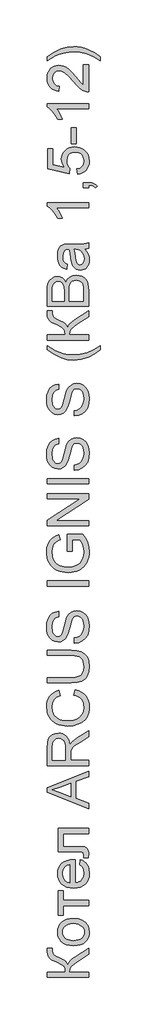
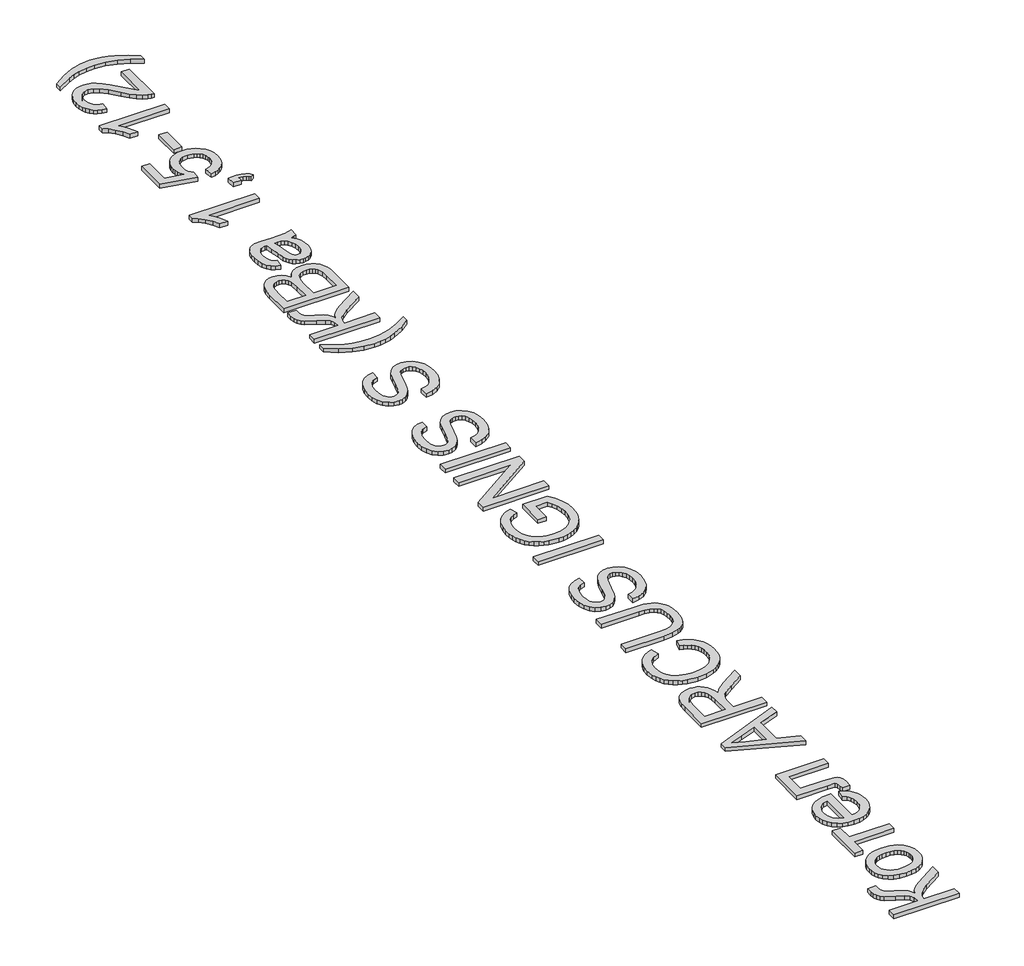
# One storey, incomplete: 1 proxy.
"""IFC4 building model written with IfcOpenShell, lengths in millimetres."""

from ifc_helpers import new_model, si_unit, frame, origin, place, context, project, spatial, polyline, outline, extrude, element, save

model = new_model("IFC4")

# Units and contexts
model_context = context("Model", 3, world=origin())
ifc_project = project(units=[si_unit("LENGTHUNIT", "METRE", prefix="MILLI")], contexts=[model_context])

# Site, building, storey
site = spatial("IfcSite", under=ifc_project)
building = spatial("IfcBuilding", under=site)
storey = spatial("IfcBuildingStorey", under=building, Name="Уровень 1", Elevation=0.0)

# Proxy
placement = place(None, origin())
element("IfcBuildingElementProxy", 1, Name="200 мм ARIAL", ObjectType="200 мм ARIAL", at=placement, inside=storey, context=model_context, shape_type="SweptSolid", body=[
    extrude(outline(polyline([(5315.8829145, -83536.8796983), (5315.8800566, -83486.6315388), (5491.6785983, -83486.6315388), (5488.3515281, -83452.6273581), (5478.3794046, -83430.4697338), (5454.9187574, -83412.5565502), (5411.1261165, -83391.2856914), (5354.9596453, -83363.5783056), (5339.7400725, -83350.2136583), (5327.1441943, -83332.1888737), (5318.6804735, -83310.7913673), (5315.8573727, -83287.3085544), (5316.4422329, -83254.3405452), (5366.6703877, -83254.3405452), (5366.3773436, -83265.4260894), (5366.0842994, -83276.5116336), (5369.1035496, -83299.5161776), (5378.1552941, -83315.7510064), (5397.1641212, -83329.7283592), (5429.8583705, -83345.5680902), (5470.5728562, -83364.9998893), (5492.8438144, -83381.1228493), (5504.5687971, -83397.0262801), (5513.645356, -83415.7994918), (5521.920487, -83396.3437239), (5536.3515254, -83377.0221455), (5556.9384711, -83357.8347566), (5583.6813242, -83338.7815573), (5717.6854908, -83254.3006026), (5717.6854908, -83312.5731103), (5604.4840658, -83384.0041504), (5568.1772514, -83411.5871689), (5545.3834136, -83434.288082), (5533.3563139, -83457.5028046), (5529.3497143, -83486.6058183), (5717.7110103, -83486.6058183), (5717.7110103, -83536.8796983), (5315.8829145, -83536.8796983)])), frame((0.0, 0.0, -4300.0), z_axis=(0.0, 0.0, 1.0), x_axis=(1.0, 0.0, 0.0)), (0.0, 0.0, 1.0), 25.0),
    extrude(outline(polyline([(5570.1307973, -83229.203315), (5531.9136806, -83226.4914684), (5498.9811836, -83218.3466297), (5471.3333064, -83204.7687988), (5448.970049, -83185.7579757), (5434.6756553, -83166.6174757), (5424.4645257, -83145.4899482), (5418.3366602, -83122.3753934), (5416.2920587, -83097.2738111), (5418.7751745, -83069.562817), (5426.2311307, -83044.5061389), (5438.6599273, -83022.1037766), (5456.0615643, -83002.3557302), (5477.8475413, -82986.2369539), (5503.4293583, -82974.722402), (5532.8070151, -82967.8120745), (5565.9805119, -82965.5059714), (5616.7241647, -82969.5714245), (5655.3531638, -82981.7807111), (5684.2832271, -83001.777937), (5705.9300725, -83029.207208), (5719.4350493, -83061.7877534), (5723.9395065, -83097.2388027), (5721.4656338, -83125.3544659), (5714.0372952, -83150.6441328), (5701.6544909, -83173.1078035), (5684.3172207, -83192.745478), (5662.3196919, -83208.6926001), (5635.9561118, -83220.0846136), (5605.2264803, -83226.9215186), (5570.1307973, -83229.203315)]), holes=[polyline([(5570.0269798, -83178.9751714), (5594.3897994, -83177.5192652), (5615.48427, -83173.1574631), (5633.3103914, -83165.8897651), (5647.8681638, -83155.7161713), (5659.1760614, -83143.3417867), (5667.2525586, -83129.4717163), (5672.0976554, -83114.1059602), (5673.7113518, -83097.2445184), (5672.0846307, -83080.4692844), (5667.2084528, -83065.1659482), (5659.0828181, -83051.3345097), (5647.7077266, -83038.974969), (5633.0035521, -83028.804705), (5614.8906685, -83021.5410967), (5593.3690759, -83017.184144), (5568.4387741, -83015.7338471), (5544.8485077, -83017.1988624), (5524.3058633, -83021.5881929), (5506.8108409, -83028.9018384), (5492.3634405, -83039.139799), (5481.0555467, -83051.5479061), (5472.9790443, -83065.3719913), (5468.1339332, -83080.6120543), (5466.5202134, -83097.2680954), (5468.1316159, -83114.1291703), (5472.9618155, -83129.4938254), (5481.0108123, -83143.3620608), (5492.2786063, -83155.7338764), (5506.7957741, -83165.9041617), (5524.5928923, -83173.1678059), (5545.6699609, -83177.5248092), (5570.0269798, -83178.9751714)])]), frame((0.0, 0.0, -4300.0), z_axis=(0.0, 0.0, 1.0), x_axis=(1.0, 0.0, 0.0)), (0.0, 0.0, 1.0), 25.0),
    extrude(outline(polyline([(5422.5384386, -82934.1296955), (5422.524864, -82695.5402448), (5472.7637356, -82695.5402448), (5472.7637356, -82789.6901712), (5717.6317056, -82789.6901712), (5717.6317056, -82839.9461897), (5472.7801681, -82839.9461897), (5472.7801681, -82934.1296955), (5422.5384386, -82934.1296955)])), frame((0.0, 0.0, -4300.0), z_axis=(0.0, 0.0, 1.0), x_axis=(1.0, 0.0, 0.0)), (0.0, 0.0, 1.0), 25.0),
    extrude(outline(polyline([(5629.687491, -82444.9702209), (5635.9604064, -82395.7223703), (5655.6858718, -82403.2709037), (5673.0694559, -82413.4623225), (5688.1111587, -82426.2966269), (5700.8109802, -82441.7738168), (5710.8991221, -82459.7345074), (5718.1057861, -82480.0193138), (5723.8746808, -82527.5612741), (5721.3919581, -82558.7272932), (5713.9363106, -82586.4971011), (5701.5077383, -82610.8706977), (5684.1062413, -82631.8480831), (5662.2161164, -82648.7179636), (5636.3216608, -82660.7690457), (5606.4228745, -82668.0013292), (5572.5197573, -82670.4148143), (5537.4664578, -82667.9846506), (5506.5696708, -82660.6857088), (5479.8293963, -82648.5179889), (5457.2456344, -82631.481491), (5439.3028753, -82610.5633098), (5426.4856093, -82586.7505404), (5418.7938364, -82560.0431826), (5416.2275567, -82530.4412366), (5418.7810764, -82501.7921354), (5426.4484678, -82475.8831733), (5439.2297308, -82452.71435), (5457.1248653, -82432.2856658), (5479.6557399, -82415.6088503), (5506.3442232, -82403.6956337), (5537.1903151, -82396.5460158), (5572.1940157, -82394.1599967), (5585.7577934, -82394.4527617), (5585.7577934, -82620.1851525), (5605.8008996, -82617.2735382), (5623.3543437, -82611.4865964), (5638.4181258, -82602.8243268), (5650.9922459, -82591.2867297), (5660.9050982, -82577.5114865), (5667.985077, -82562.1362791), (5673.6464144, -82526.5859711), (5671.0191475, -82499.8535116), (5663.1439108, -82477.3400295), (5649.5301951, -82459.0455807), (5629.687491, -82444.9702209)]), holes=[polyline([(5535.5196363, -82620.1908681), (5535.5096339, -82444.3923265), (5508.9738525, -82451.1889003), (5489.9926571, -82464.5083886), (5479.69352, -82478.2070336), (5472.3376538, -82493.7938046), (5467.9250583, -82511.2687016), (5466.4557337, -82530.6317246), (5471.1562133, -82564.4885963), (5485.2492793, -82592.4828126), (5507.2140488, -82611.9412708), (5535.5196363, -82620.1908681)])]), frame((0.0, 0.0, -4300.0), z_axis=(0.0, 0.0, 1.0), x_axis=(1.0, 0.0, 0.0)), (0.0, 0.0, 1.0), 25.0),
    extrude(outline(polyline([(5422.4691364, -82318.8347999), (5422.4562761, -82092.7745575), (5717.2580954, -82092.7745575), (5717.2580954, -82143.0305426), (5472.7044357, -82143.0305426), (5472.7044357, -82268.58491), (5613.4806116, -82268.58491), (5678.4244312, -82271.9620342), (5693.1281696, -82278.3001941), (5705.8460178, -82290.5492174), (5714.6405129, -82309.1385202), (5717.5741919, -82334.4975188), (5715.0281874, -82375.3136101), (5667.3481247, -82375.3136101), (5667.3481247, -82352.8482831), (5664.2553316, -82330.1380531), (5654.4441125, -82321.0647469), (5610.6413732, -82318.8347999), (5422.4691364, -82318.8347999)])), frame((0.0, 0.0, -4300.0), z_axis=(0.0, 0.0, 1.0), x_axis=(1.0, 0.0, 0.0)), (0.0, 0.0, 1.0), 25.0),
    extrude(outline(polyline([(5717.5248609, -81900.9853785), (5315.6765035, -81740.6345548), (5315.6765035, -81697.8621418), (5717.4895288, -81537.4198677), (5717.4895288, -81590.4929765), (5591.9432102, -81636.5170402), (5591.9432102, -81802.0148861), (5717.5248609, -81847.9122696), (5717.5248609, -81900.9853785)]), holes=[polyline([(5541.7056335, -81783.5774511), (5541.6983103, -81654.8678046), (5442.9138518, -81691.0786342), (5365.9070919, -81719.2426326), (5434.2869383, -81744.2508273), (5541.7056335, -81783.5774511)])]), frame((0.0, 0.0, -4300.0), z_axis=(0.0, 0.0, 1.0), x_axis=(1.0, 0.0, 0.0)), (0.0, 0.0, 1.0), 25.0),
    extrude(outline(polyline([(5717.477383, -81483.7810103), (5315.6324417, -81483.8038729), (5315.6324417, -81310.6540816), (5318.33721, -81264.1167012), (5326.4635493, -81230.2583699), (5341.4703187, -81205.5104665), (5364.8163772, -81186.3043696), (5393.7672877, -81173.9770283), (5425.5886126, -81169.8653916), (5446.226986, -81171.5644973), (5465.1734895, -81176.666704), (5482.428123, -81185.1720117), (5497.9908866, -81197.0804205), (5511.365157, -81212.5452709), (5522.054311, -81231.7199036), (5530.0583485, -81254.6043187), (5535.3772697, -81281.1985162), (5556.8583295, -81252.6484288), (5608.5533794, -81211.9302718), (5717.4454669, -81144.9143069), (5717.4454669, -81203.2849164), (5634.1629338, -81255.582688), (5579.0339837, -81293.3581798), (5562.9591384, -81307.4008385), (5552.9909583, -81319.897698), (5543.4287448, -81343.7865905), (5541.6731257, -81372.9230453), (5541.6731257, -81433.5299929), (5717.477383, -81433.5299929), (5717.477383, -81483.7810103)]), holes=[polyline([(5491.4385744, -81433.5557134), (5491.4321778, -81321.1309764), (5489.6504073, -81288.8434025), (5484.3132676, -81263.7912458), (5475.0650207, -81244.9322144), (5461.5499287, -81231.2240166), (5445.2027552, -81222.8749554), (5427.4582637, -81220.0933342), (5402.9579272, -81225.4058857), (5383.2167395, -81241.3374226), (5375.6213603, -81253.4998526), (5370.1968358, -81268.746113), (5365.8745841, -81308.490125), (5365.8745841, -81433.5557134), (5491.4385744, -81433.5557134)])]), frame((0.0, 0.0, -4300.0), z_axis=(0.0, 0.0, 1.0), x_axis=(1.0, 0.0, 0.0)), (0.0, 0.0, 1.0), 25.0),
    extrude(outline(polyline([(5574.5631922, -80799.4157931), (5587.5069227, -80749.1861648), (5618.7443005, -80759.1215555), (5646.0395851, -80772.35607), (5669.3927763, -80788.8897083), (5688.8038742, -80808.7224705), (5704.0643614, -80831.4067905), (5714.9657205, -80856.4951022), (5721.5079514, -80883.9874057), (5723.6910543, -80913.8837009), (5722.0452021, -80944.5131302), (5717.1003335, -80972.1446966), (5708.8564486, -80996.7784001), (5697.3135472, -81018.4142408), (5682.6433416, -81037.3495703), (5665.0175438, -81053.8817404), (5644.4361539, -81068.0107512), (5620.8991717, -81079.7366025), (5569.0296066, -81095.5246426), (5513.4800244, -81100.7916764), (5454.8880089, -81094.8509182), (5428.5897318, -81087.4196287), (5404.2899418, -81077.014399), (5382.3902699, -81063.8681754), (5363.2923472, -81048.2139039), (5346.9961736, -81030.0515847), (5333.5017492, -81009.3812177), (5322.9195184, -80986.9048318), (5315.3599258, -80963.324456), (5309.3086548, -80912.8517345), (5311.2612916, -80884.122994), (5317.1260117, -80857.7789099), (5326.902815, -80833.8194823), (5340.5917016, -80812.2447111), (5357.8309613, -80793.4102568), (5378.258884, -80777.6717798), (5401.8754696, -80765.0292801), (5428.6807181, -80755.4827577), (5440.6548613, -80805.7095505), (5404.028059, -80823.1267996), (5378.904426, -80846.919361), (5364.3765535, -80877.3816436), (5359.5370328, -80914.8080562), (5364.913019, -80957.94774), (5371.6289913, -80976.6292499), (5381.0302831, -80993.3852051), (5406.1964715, -81020.2745153), (5438.719231, -81037.7697348), (5475.4839974, -81047.3672713), (5513.3762068, -81050.5635328), (5559.7779577, -81046.769068), (5599.9003268, -81035.3969486), (5632.2104237, -81016.0181534), (5655.175358, -80988.2036611), (5668.8935622, -80954.8597283), (5673.4634689, -80918.8926117), (5671.9036169, -80897.0559269), (5667.2292295, -80876.9670361), (5659.4403068, -80858.6259392), (5648.5368487, -80842.0326362), (5634.5679509, -80827.5795289), (5617.5827088, -80815.6590193), (5597.5811226, -80806.2711074), (5574.5631922, -80799.4157931)])), frame((0.0, 0.0, -4300.0), z_axis=(0.0, 0.0, 1.0), x_axis=(1.0, 0.0, 0.0)), (0.0, 0.0, 1.0), 25.0),
    extrude(outline(polyline([(5315.5278296, -80416.4555845), (5315.5249718, -80366.2010507), (5547.3396782, -80366.2010507), (5601.6271855, -80369.6039129), (5643.4320064, -80379.8262753), (5660.3861663, -80388.0097205), (5675.6851685, -80398.9279435), (5701.3176994, -80428.9687232), (5711.0840789, -80448.1097384), (5718.061002, -80470.0224488), (5723.6464789, -80522.162955), (5718.7962401, -80573.1642145), (5704.232753, -80613.9394598), (5693.4342347, -80630.4953785), (5680.4587909, -80644.5008964), (5665.3064218, -80655.9560135), (5647.9771274, -80664.8607298), (5604.4089386, -80676.3068177), (5547.375401, -80680.1533969), (5315.5549789, -80680.1533969), (5315.5549789, -80629.899064), (5545.6038518, -80629.899064), (5590.7426904, -80627.4168554), (5622.1712297, -80619.9820627), (5643.9360488, -80606.5151049), (5660.0837267, -80585.936401), (5670.0870637, -80559.1044023), (5673.41886, -80526.8775602), (5671.7663722, -80499.1946279), (5666.8156962, -80475.7917648), (5658.5668321, -80456.668971), (5647.0197797, -80441.8262464), (5630.7826561, -80430.7119264), (5608.4635784, -80422.7743464), (5580.0625464, -80418.0135064), (5545.5795602, -80416.4555845), (5315.5278296, -80416.4555845)])), frame((0.0, 0.0, -4300.0), z_axis=(0.0, 0.0, 1.0), x_axis=(1.0, 0.0, 0.0)), (0.0, 0.0, 1.0), 25.0),
    extrude(outline(polyline([(5579.2120674, -80297.1337098), (5579.2092095, -80246.905555), (5607.081746, -80241.1388987), (5629.4845732, -80230.7130261), (5647.2636859, -80214.4506187), (5661.2650786, -80191.1743577), (5670.3485264, -80162.7237829), (5673.3738046, -80130.938434), (5671.0774891, -80102.9551381), (5664.1953078, -80078.4549802), (5653.3037416, -80058.6028544), (5638.9792716, -80044.5636549), (5622.5339962, -80036.2146049), (5605.280014, -80033.4329279), (5588.4680442, -80035.5195056), (5573.9374171, -80041.7751531), (5561.5412396, -80054.4807553), (5551.1326184, -80075.9171975), (5531.9620262, -80149.0543201), (5519.2755605, -80197.0643644), (5507.2002639, -80227.7838853), (5490.305063, -80252.789521), (5469.8283151, -80270.5115007), (5446.2114926, -80281.0724014), (5419.8960679, -80284.5948004), (5390.4772759, -80280.2448778), (5363.0440558, -80267.1881886), (5339.791476, -80245.7678396), (5322.9146049, -80216.3269376), (5312.6466757, -80180.9869088), (5309.2209218, -80141.8691795), (5312.7968172, -80099.4887665), (5323.5347517, -80062.4050392), (5341.2141466, -80031.942398), (5365.6144234, -80009.4252432), (5395.2150396, -79995.1725788), (5428.5011682, -79989.5034089), (5428.5011682, -80039.7315636), (5398.5320979, -80048.9565493), (5386.6749867, -80057.3210827), (5376.9028247, -80068.1869764), (5363.8096446, -80098.2321627), (5359.4488532, -80139.9014266), (5363.7701886, -80182.5507211), (5369.1676464, -80198.8534107), (5376.7229642, -80211.8081287), (5395.7811771, -80228.7285318), (5418.4188243, -80234.3668131), (5437.7199113, -80230.3669657), (5453.2431666, -80218.3722462), (5467.1213543, -80190.0192276), (5481.2909674, -80136.3558945), (5494.7491466, -80080.9758597), (5506.4930326, -80047.4727361), (5524.7121957, -80018.8371807), (5547.199775, -79998.8586293), (5573.7104685, -79987.1201768), (5603.9989741, -79983.2049183), (5634.9628873, -79987.7018179), (5664.0884148, -80001.1997729), (5689.155939, -80023.1472129), (5707.9458426, -80052.9925674), (5719.6853626, -80088.8842518), (5723.601736, -80128.9706811), (5719.3889557, -80178.181509), (5706.7384242, -80218.6867565), (5685.6011437, -80250.952413), (5655.9281163, -80275.4444679), (5619.7793681, -80291.1694054), (5579.2120674, -80297.1337098)])), frame((0.0, 0.0, -4300.0), z_axis=(0.0, 0.0, 1.0), x_axis=(1.0, 0.0, 0.0)), (0.0, 0.0, 1.0), 25.0),
    extrude(outline(polyline([(5717.2794786, -79744.6311521), (5315.4485249, -79744.6540147), (5315.4485249, -79694.3801347), (5717.2794786, -79694.3801347), (5717.2794786, -79744.6311521)])), frame((0.0, 0.0, -4300.0), z_axis=(0.0, 0.0, 1.0), x_axis=(1.0, 0.0, 0.0)), (0.0, 0.0, 1.0), 25.0),
    extrude(outline(polyline([(5560.2779143, -79405.5889642), (5510.0311837, -79405.591822), (5510.0311837, -79242.3332279), (5660.2251386, -79242.3332279), (5687.8208023, -79282.0000298), (5707.61751, -79322.9185179), (5719.5416743, -79364.9905988), (5723.5197075, -79408.118179), (5721.9441637, -79436.9695039), (5717.2108119, -79464.4661562), (5709.3196522, -79490.6081357), (5698.2706845, -79515.3954426), (5684.2293647, -79538.0279147), (5667.3611486, -79557.7053897), (5647.6660362, -79574.4278676), (5625.1440276, -79588.1953486), (5600.5155516, -79598.9495025), (5574.5010372, -79606.6319995), (5547.1004844, -79611.2428395), (5518.3138933, -79612.7820226), (5461.7206837, -79606.6693587), (5434.9042817, -79599.0235303), (5409.0746816, -79588.3180378), (5385.3662078, -79574.7428243), (5364.9131847, -79558.4878331), (5347.7156123, -79539.5530642), (5333.7734907, -79517.9385177), (5322.9979684, -79494.1132532), (5315.3001939, -79468.5463303), (5310.6801673, -79441.2377491), (5309.1378885, -79412.1875095), (5312.7016357, -79370.812642), (5323.402768, -79333.6062916), (5340.4689271, -79302.2730661), (5363.127755, -79278.5175734), (5392.4704756, -79260.9417376), (5429.5883133, -79248.147483), (5442.6411304, -79294.4500785), (5416.167066, -79304.7905752), (5396.1925041, -79317.3621498), (5381.13576, -79333.9921294), (5369.4151492, -79356.5078414), (5361.8766229, -79383.3518223), (5359.3661326, -79412.9666088), (5362.0801415, -79447.6330469), (5370.2137062, -79477.2711476), (5382.7490075, -79501.7706622), (5398.6682259, -79521.0213419), (5417.1498461, -79535.7958324), (5437.3723531, -79546.8667793), (5475.2900634, -79558.6346884), (5516.2480385, -79562.5541023), (5564.2806268, -79557.8274842), (5603.8018038, -79543.65953), (5634.5295756, -79520.4794675), (5656.1819481, -79488.7165245), (5669.0168001, -79451.5467195), (5673.2920105, -79412.1460711), (5670.0629528, -79377.3570643), (5660.3837953, -79343.4271828), (5647.0508512, -79313.961352), (5632.860434, -79292.5727582), (5560.2779143, -79292.5727582), (5560.2779143, -79405.5889642)])), frame((0.0, 0.0, -4300.0), z_axis=(0.0, 0.0, 1.0), x_axis=(1.0, 0.0, 0.0)), (0.0, 0.0, 1.0), 25.0),
    extrude(outline(polyline([(5717.2130341, -79160.7288531), (5315.3816786, -79160.7517157), (5315.3816786, -79106.9918939), (5633.69834, -78897.0539033), (5315.3520733, -78897.0539033), (5315.3520733, -78846.7800233), (5717.1834288, -78846.7800233), (5717.1834288, -78900.5398452), (5398.7686655, -79110.4778358), (5717.2130341, -79110.4778358), (5717.2130341, -79160.7288531)])), frame((0.0, 0.0, -4300.0), z_axis=(0.0, 0.0, 1.0), x_axis=(1.0, 0.0, 0.0)), (0.0, 0.0, 1.0), 25.0),
    extrude(outline(polyline([(5717.1665944, -78752.6250958), (5315.3356408, -78752.6479584), (5315.3356408, -78702.3740784), (5717.1665944, -78702.3740784), (5717.1665944, -78752.6250958)])), frame((0.0, 0.0, -4300.0), z_axis=(0.0, 0.0, 1.0), x_axis=(1.0, 0.0, 0.0)), (0.0, 0.0, 1.0), 25.0),
    extrude(outline(polyline([(5579.0213075, -78620.769045), (5579.0184496, -78570.5408903), (5606.8909861, -78564.7742339), (5629.2938134, -78554.3483613), (5647.072926, -78538.0859539), (5661.0743187, -78514.8096929), (5670.1577665, -78486.3591181), (5673.1830447, -78454.5737693), (5670.8867292, -78426.5904733), (5664.0045479, -78402.0903154), (5653.1129817, -78382.2381897), (5638.7885117, -78368.1989901), (5622.3432364, -78359.8499402), (5605.0892541, -78357.0682631), (5588.2772843, -78359.1548409), (5573.7466572, -78365.4104883), (5561.3504797, -78378.1160906), (5550.9418585, -78399.5525327), (5531.7712663, -78472.6896553), (5519.0848006, -78520.6996997), (5507.0095041, -78551.4192206), (5490.1143031, -78576.4248562), (5469.6375552, -78594.1468359), (5446.0207328, -78604.7077367), (5419.705308, -78608.2301357), (5390.286516, -78603.880213), (5362.8532959, -78590.8235238), (5339.6007162, -78569.4031748), (5322.723845, -78539.9622728), (5312.4559158, -78504.622244), (5309.0301619, -78465.5045147), (5312.6060574, -78423.1241017), (5323.3439918, -78386.0403744), (5341.0233867, -78355.5777332), (5365.4236635, -78333.0605784), (5395.0242797, -78318.807914), (5428.3104083, -78313.1387441), (5428.3104083, -78363.3668989), (5398.341338, -78372.5918846), (5386.4842268, -78380.9564179), (5376.7120649, -78391.8223116), (5363.6188847, -78421.867498), (5359.2580934, -78463.5367618), (5363.5794287, -78506.1860563), (5368.9768865, -78522.488746), (5376.5322043, -78535.4434639), (5395.5904172, -78552.3638671), (5418.2280644, -78558.0021484), (5437.5291514, -78554.002301), (5453.0524068, -78542.0075814), (5466.9305944, -78513.6545629), (5481.1002075, -78459.9912297), (5494.5583867, -78404.6111949), (5506.3022727, -78371.1080713), (5524.5214358, -78342.4725159), (5547.0090151, -78322.4939645), (5573.5197086, -78310.755512), (5603.8082142, -78306.8402535), (5634.7721274, -78311.3371531), (5663.8976549, -78324.8351081), (5688.9651791, -78346.7825481), (5707.7550827, -78376.6279026), (5719.4946027, -78412.519587), (5723.4109762, -78452.6060163), (5719.1981958, -78501.8168443), (5706.5476643, -78542.3220917), (5685.4103838, -78574.5877482), (5655.7373564, -78599.0798031), (5619.5886082, -78614.8047407), (5579.0213075, -78620.769045)])), frame((0.0, 0.0, -4300.0), z_axis=(0.0, 0.0, 1.0), x_axis=(1.0, 0.0, 0.0)), (0.0, 0.0, 1.0), 25.0),
    extrude(outline(polyline([(5578.9612931, -78093.3734201), (5578.9584353, -78043.1452654), (5606.8309718, -78037.378609), (5629.233799, -78026.9527365), (5647.0129117, -78010.690329), (5661.0143044, -77987.414068), (5670.0977522, -77958.9634933), (5673.1230303, -77927.1781444), (5670.8267149, -77899.1948484), (5663.9445336, -77874.6946905), (5653.0529674, -77854.8425648), (5638.7284974, -77840.8033653), (5622.283222, -77832.4543153), (5605.0292398, -77829.6726382), (5588.2172699, -77831.759216), (5573.6866429, -77838.0148634), (5561.2904654, -77850.7204657), (5550.8818442, -77872.1569079), (5531.7112519, -77945.2940305), (5519.0247863, -77993.3040748), (5506.9494897, -78024.0235957), (5490.0542888, -78049.0292314), (5469.5775409, -78066.751211), (5445.9607184, -78077.3121118), (5419.6452937, -78080.8345108), (5390.2265016, -78076.4845882), (5362.7932816, -78063.427899), (5339.5407018, -78042.00755), (5322.6638307, -78012.5666479), (5312.3959015, -77977.2266191), (5308.9701475, -77938.1088899), (5312.546043, -77895.7284768), (5323.2839774, -77858.6447496), (5340.9633723, -77828.1821084), (5365.3636492, -77805.6649535), (5394.9642654, -77791.4122891), (5428.250394, -77785.7431192), (5428.250394, -77835.971274), (5398.2813237, -77845.1962597), (5386.4242124, -77853.560793), (5376.6520505, -77864.4266867), (5363.5588703, -77894.4718731), (5359.198079, -77936.1411369), (5363.5194143, -77978.7904314), (5368.9168721, -77995.0931211), (5376.47219, -78008.047839), (5395.5304029, -78024.9682422), (5418.1680501, -78030.6065235), (5437.469137, -78026.6066761), (5452.9923924, -78014.6119565), (5466.8705801, -77986.258938), (5481.0401931, -77932.5956049), (5494.4983724, -77877.2155701), (5506.2422584, -77843.7124464), (5524.4614214, -77815.0768911), (5546.9490008, -77795.0983396), (5573.4596943, -77783.3598872), (5603.7481999, -77779.4446286), (5634.7121131, -77783.9415282), (5663.8376405, -77797.4394832), (5688.9051648, -77819.3869232), (5707.6950683, -77849.2322778), (5719.4345883, -77885.1239621), (5723.3509618, -77925.2103915), (5719.1381815, -77974.4212194), (5706.48765, -78014.9264669), (5685.3503695, -78047.1921234), (5655.6773421, -78071.6841783), (5619.5285938, -78087.4091158), (5578.9612931, -78093.3734201)])), frame((0.0, 0.0, -4300.0), z_axis=(0.0, 0.0, 1.0), x_axis=(1.0, 0.0, 0.0)), (0.0, 0.0, 1.0), 25.0),
    extrude(outline(polyline([(5830.0320501, -77452.9358688), (5775.418266, -77491.8639989), (5712.2198263, -77524.2693317), (5678.1676671, -77537.0203178), (5643.5019567, -77546.129342), (5608.2226953, -77551.5964043), (5572.3298827, -77553.4215045), (5509.9119517, -77547.9839537), (5450.1905829, -77531.656789), (5382.5456576, -77499.2418198), (5315.1891772, -77452.9944543), (5315.1891772, -77415.3233382), (5394.7551368, -77462.3050779), (5432.5261799, -77478.3404349), (5471.8664175, -77490.5496405), (5522.1201778, -77500.0352775), (5572.6184727, -77503.1933163), (5637.009459, -77497.6922845), (5701.3746696, -77481.2038466), (5765.7141044, -77453.7280027), (5830.0320501, -77415.2647528), (5830.0320501, -77452.9358688)])), frame((0.0, 0.0, -4300.0), z_axis=(0.0, 0.0, 1.0), x_axis=(1.0, 0.0, 0.0)), (0.0, 0.0, 1.0), 25.0),
    extrude(outline(polyline([(5315.1798893, -77358.8166641), (5315.1770314, -77308.5685046), (5490.9755731, -77308.5685046), (5487.6485029, -77274.5643239), (5477.6763794, -77252.4066996), (5454.2157322, -77234.493516), (5410.4230913, -77213.2226572), (5354.2566201, -77185.5152714), (5339.0370473, -77172.1506241), (5326.4411691, -77154.1258395), (5317.9774483, -77132.7283331), (5315.1543475, -77109.2455202), (5315.7392077, -77076.277511), (5365.9673625, -77076.277511), (5365.6743184, -77087.3630552), (5365.3812742, -77098.4485994), (5368.4005244, -77121.4531434), (5377.4522689, -77137.6879722), (5396.461096, -77151.665325), (5429.1553453, -77167.505056), (5469.8698309, -77186.9368551), (5492.1407892, -77203.0598151), (5503.8657719, -77218.9632459), (5512.9423308, -77237.7364576), (5521.2174618, -77218.2806897), (5535.6485002, -77198.9591113), (5556.2354459, -77179.7717224), (5582.978299, -77160.7185231), (5716.9824656, -77076.2375684), (5716.9824656, -77134.5100761), (5603.7810406, -77205.9411161), (5567.4742262, -77233.5241347), (5544.6803884, -77256.2250478), (5532.6532887, -77279.4397704), (5528.6466891, -77308.5427841), (5717.0079851, -77308.5427841), (5717.0079851, -77358.8166641), (5315.1798893, -77358.8166641)])), frame((0.0, 0.0, -4300.0), z_axis=(0.0, 0.0, 1.0), x_axis=(1.0, 0.0, 0.0)), (0.0, 0.0, 1.0), 25.0),
    extrude(outline(polyline([(5716.9708334, -77032.3107956), (5315.128147, -77032.3336582), (5315.128147, -76879.0004436), (5318.0786668, -76836.8285682), (5326.9408761, -76803.902121), (5341.9353269, -76778.6637097), (5363.2825712, -76759.5559421), (5388.3952796, -76747.5233431), (5414.6861231, -76743.5104376), (5438.8808792, -76746.879936), (5461.6294003, -76756.9941023), (5481.5337432, -76773.9266719), (5497.1959647, -76797.7513804), (5512.0551584, -76769.2878856), (5534.6652451, -76748.2547252), (5563.530241, -76735.265206), (5597.1541626, -76730.932635), (5625.174844, -76733.8847651), (5651.1605843, -76742.7477643), (5673.259535, -76755.9767387), (5689.6198476, -76772.0267948), (5701.4678846, -76791.682608), (5710.0300087, -76815.7288536), (5715.2204701, -76844.9503563), (5716.9708334, -76880.1319408), (5716.9708334, -77032.3107956)]), holes=[polyline([(5478.3761638, -76982.0869276), (5478.3709449, -76890.3616841), (5474.0483676, -76836.7985571), (5466.602755, -76818.0496852), (5455.4543971, -76804.57421), (5440.7749804, -76796.4456883), (5422.7361916, -76793.7376769), (5405.2252962, -76796.2657926), (5389.9713186, -76803.8458976), (5378.065603, -76816.1345111), (5370.5994936, -76832.7881524), (5366.6660643, -76858.3441361), (5365.3680345, -76897.3397767), (5365.3680345, -76982.0869276), (5478.3761638, -76982.0869276)]), polyline([(5666.7311022, -76982.0654939), (5666.7252414, -76879.0585359), (5664.758962, -76841.7800506), (5653.8170151, -76810.2415458), (5644.385656, -76798.6665988), (5631.496463, -76789.3483883), (5615.7258892, -76783.2065535), (5597.6503876, -76781.1607339), (5576.656862, -76783.5666186), (5558.6069394, -76790.7791597), (5544.4939667, -76803.3745927), (5535.3112909, -76821.9291531), (5530.274298, -76848.2087636), (5528.6095374, -76883.9793472), (5528.6095374, -76982.0654939), (5666.7311022, -76982.0654939)])]), frame((0.0, 0.0, -4300.0), z_axis=(0.0, 0.0, 1.0), x_axis=(1.0, 0.0, 0.0)), (0.0, 0.0, 1.0), 25.0),
    extrude(outline(polyline([(5679.2368451, -76479.7825175), (5699.8164421, -76503.7783446), (5713.2837348, -76528.4862197), (5720.717908, -76554.4701055), (5723.1981463, -76582.293965), (5721.7107691, -76604.658294), (5717.2432345, -76624.2699785), (5709.7955425, -76641.1290186), (5699.3676931, -76655.2354141), (5686.6218494, -76666.374492), (5672.2201747, -76674.331579), (5656.1626689, -76679.1066752), (5638.449332, -76680.6997805), (5617.6269377, -76678.2986542), (5598.7169828, -76671.0903189), (5582.5289094, -76659.9698619), (5569.87216, -76645.8323708), (5560.3053373, -76629.2174558), (5553.3870446, -76610.6647277), (5545.8282556, -76567.2064612), (5537.8761606, -76515.8510392), (5528.5524144, -76480.0939701), (5517.3687683, -76479.8009371), (5494.9528857, -76483.2615786), (5480.2878375, -76493.6375198), (5469.4011706, -76516.8398499), (5465.7750799, -76549.1648274), (5468.1942432, -76579.0856212), (5475.4438963, -76599.9804937), (5488.848685, -76614.2282644), (5509.7332553, -76624.2077527), (5503.4604516, -76674.4366219), (5475.9909374, -76665.7209445), (5454.4070466, -76652.7126406), (5437.8993008, -76634.1977919), (5425.6582213, -76608.9624798), (5418.07634, -76578.098043), (5415.5461884, -76542.69582), (5417.7741419, -76508.7400581), (5424.4665312, -76481.822597), (5434.5319257, -76461.5266281), (5446.8788946, -76447.4353426), (5462.1449339, -76438.0894027), (5480.9675399, -76432.0294706), (5524.9168962, -76429.5648117), (5587.4077841, -76429.5648117), (5674.6691025, -76427.0042334), (5716.9065323, -76416.9930373), (5716.9065323, -76467.2211921), (5699.4453157, -76475.2675321), (5679.2368451, -76479.7825175)]), holes=[polyline([(5578.7805356, -76479.7939488), (5587.1475598, -76513.5400386), (5594.1917493, -76560.8243364), (5602.3391216, -76604.0372813), (5607.907682, -76615.281574), (5615.5851004, -76623.6070963), (5624.7827363, -76628.7563976), (5634.9119492, -76630.4720276), (5649.8475325, -76626.7301944), (5662.0844633, -76615.508401), (5670.2493435, -76597.0520583), (5672.9687747, -76571.6065774), (5669.9613352, -76544.6289064), (5660.9455136, -76520.7911789), (5647.6627745, -76501.4666228), (5631.8545822, -76488.0284661), (5615.5689945, -76482.0706309), (5593.0053395, -76480.0866357), (5578.7805356, -76479.7939488)])]), frame((0.0, 0.0, -4300.0), z_axis=(0.0, 0.0, 1.0), x_axis=(1.0, 0.0, 0.0)), (0.0, 0.0, 1.0), 25.0),
    extrude(outline(polyline([(5716.8593781, -76027.724838), (5716.862236, -76077.9886263), (5403.7210837, -76077.9886263), (5420.6828297, -76098.95597), (5437.6206922, -76125.5641737), (5462.9860413, -76178.4435962), (5415.5047388, -76178.4435962), (5394.0404668, -76138.9968258), (5368.5055674, -76104.8234939), (5341.3528106, -76077.8853588), (5315.0312823, -76060.1441786), (5315.0312823, -76027.724838), (5716.8593781, -76027.724838)])), frame((0.0, 0.0, -4300.0), z_axis=(0.0, 0.0, 1.0), x_axis=(1.0, 0.0, 0.0)), (0.0, 0.0, 1.0), 25.0),
    extrude(outline(polyline([(5716.8400878, -75883.3217509), (5666.6062174, -75883.3246088), (5666.6062174, -75833.0907384), (5716.8343722, -75833.0907384), (5745.5662126, -75835.3438118), (5768.1917254, -75842.1102659), (5785.5448212, -75853.7824133), (5798.4594104, -75870.7525665), (5779.6252813, -75883.3117485), (5770.5250942, -75872.423477), (5757.9426704, -75864.8710651), (5740.5045421, -75860.2867872), (5716.8400878, -75858.3029176), (5716.8400878, -75883.3217509)])), frame((0.0, 0.0, -4300.0), z_axis=(0.0, 0.0, 1.0), x_axis=(1.0, 0.0, 0.0)), (0.0, 0.0, 1.0), 25.0),
    extrude(outline(polyline([(5610.0902554, -75751.4821327), (5603.8060204, -75701.2546924), (5633.9590317, -75692.0296857), (5655.5518739, -75675.9385226), (5668.5355044, -75653.0547849), (5672.8608806, -75623.4520546), (5671.3534533, -75604.3223623), (5666.8357817, -75587.4493554), (5659.3078659, -75572.833034), (5648.7697059, -75560.473398), (5635.7424993, -75550.6462998), (5620.7474435, -75543.6275913), (5584.8537846, -75538.015344), (5551.0582909, -75543.2799022), (5537.1408371, -75549.8573767), (5525.2102454, -75559.0649813), (5515.6405326, -75570.9333304), (5508.8057157, -75585.4930382), (5503.340769, -75622.68653), (5505.5263082, -75647.0523323), (5512.0768529, -75666.7823247), (5522.1095617, -75682.5387952), (5534.7415932, -75694.984032), (5528.4687895, -75745.2129012), (5321.2505018, -75701.2868429), (5321.2505018, -75506.6470276), (5371.496183, -75506.6470276), (5371.496183, -75660.6669552), (5482.1575312, -75682.1386713), (5469.4513227, -75664.4143363), (5460.3748343, -75646.2603926), (5454.928066, -75627.6768401), (5453.1110179, -75608.663679), (5455.3584459, -75584.2023361), (5462.1065237, -75561.7331752), (5473.3552513, -75541.2561963), (5489.1046287, -75522.7713994), (5508.3921667, -75507.4683792), (5530.2553762, -75496.5367303), (5554.694257, -75489.9764527), (5581.7088093, -75487.7875464), (5607.7305529, -75489.752754), (5631.9378599, -75495.6545054), (5654.3307304, -75505.4928007), (5674.9091643, -75519.2676398), (5695.9850461, -75540.1364135), (5711.0403223, -75564.4884885), (5720.0749928, -75592.3238649), (5723.0890577, -75623.6425427), (5721.1575611, -75649.5631149), (5715.3568869, -75672.9763984), (5705.687035, -75693.8823933), (5692.1480055, -75712.2810995), (5675.4141823, -75727.5899605), (5656.1599496, -75739.2264197), (5634.3853073, -75747.1904771), (5610.0902554, -75751.4821327)])), frame((0.0, 0.0, -4300.0), z_axis=(0.0, 0.0, 1.0), x_axis=(1.0, 0.0, 0.0)), (0.0, 0.0, 1.0), 25.0),
    extrude(outline(polyline([(5597.4996372, -75456.3960102), (5547.2536211, -75456.3988681), (5547.2536211, -75299.4301688), (5597.4996372, -75299.4301688), (5597.4996372, -75456.3960102)])), frame((0.0, 0.0, -4300.0), z_axis=(0.0, 0.0, 1.0), x_axis=(1.0, 0.0, 0.0)), (0.0, 0.0, 1.0), 25.0),
    extrude(outline(polyline([(5716.7500663, -75067.1113784), (5716.7529241, -75117.3751667), (5403.6117719, -75117.3751667), (5420.5735179, -75138.3425104), (5437.5113804, -75164.9507141), (5462.8767295, -75217.8301366), (5415.3954269, -75217.8301366), (5393.9311549, -75178.3833662), (5368.3962556, -75144.2100344), (5341.2434988, -75117.2718992), (5314.9219705, -75099.530719), (5314.9219705, -75067.1113784), (5716.7500663, -75067.1113784)])), frame((0.0, 0.0, -4300.0), z_axis=(0.0, 0.0, 1.0), x_axis=(1.0, 0.0, 0.0)), (0.0, 0.0, 1.0), 25.0),
    extrude(outline(polyline([(5666.4761863, -74690.4030756), (5716.7343483, -74690.4002178), (5716.7343483, -74954.0980302), (5699.0513615, -74952.9963965), (5682.103776, -74948.7063684), (5655.0385147, -74936.3240876), (5628.7819407, -74918.2027557), (5601.2981724, -74891.9881595), (5570.5513283, -74855.3260859), (5522.4016704, -74801.130284), (5486.8605692, -74768.6135598), (5458.0167706, -74752.3564578), (5429.9590205, -74746.9395225), (5404.8087369, -74752.0559442), (5383.9025226, -74767.3990025), (5369.8153257, -74790.9818416), (5365.122094, -74820.8176056), (5369.7119215, -74852.1483668), (5383.4734779, -74876.4883263), (5405.3274558, -74892.1944008), (5434.1945477, -74897.6235067), (5427.921744, -74947.8523759), (5401.9917033, -74943.5357788), (5379.3354098, -74935.6810106), (5359.9528635, -74924.2880713), (5343.8440643, -74909.356961), (5331.1807296, -74891.2310166), (5322.1345767, -74870.2535751), (5316.7056056, -74846.4246365), (5314.8938164, -74819.7442008), (5316.9018413, -74792.8242071), (5322.9323797, -74768.8652058), (5332.9854315, -74747.8671968), (5347.0609968, -74729.8301801), (5364.1168102, -74715.3428856), (5383.1106064, -74704.9940431), (5404.0423853, -74698.7836525), (5426.9121471, -74696.7117138), (5450.9350952, -74698.9407976), (5474.5416183, -74705.6335637), (5498.5534018, -74717.5134198), (5523.7921313, -74735.3037737), (5553.9248941, -74763.6640468), (5592.6187778, -74807.2536604), (5640.9405214, -74865.0301608), (5666.4761863, -74887.6887835), (5666.4761863, -74690.4030756)])), frame((0.0, 0.0, -4300.0), z_axis=(0.0, 0.0, 1.0), x_axis=(1.0, 0.0, 0.0)), (0.0, 0.0, 1.0), 25.0),
    extrude(outline(polyline([(5829.7112592, -74615.0451255), (5829.7134025, -74652.7162415), (5765.3909914, -74614.2676295), (5701.0453051, -74586.8064292), (5636.6763437, -74570.3326405), (5572.284107, -74564.8462634), (5522.1544142, -74568.0157531), (5472.4178488, -74577.5127683), (5433.0067894, -74589.5102062), (5395.2148628, -74605.4805853), (5314.8705296, -74652.774827), (5314.8705296, -74615.1037109), (5382.2121962, -74568.841018), (5449.8497425, -74536.4106546), (5509.5673939, -74520.0698984), (5571.9840858, -74514.6181422), (5607.8773138, -74516.4442707), (5643.1578217, -74521.9308948), (5677.8256095, -74531.0780145), (5711.8806772, -74543.8856298), (5775.0864945, -74576.3133668), (5829.7112592, -74615.0451255)])), frame((0.0, 0.0, -4300.0), z_axis=(0.0, 0.0, 1.0), x_axis=(1.0, 0.0, 0.0)), (0.0, 0.0, 1.0), 25.0),
])

save(model, "model.ifc")
